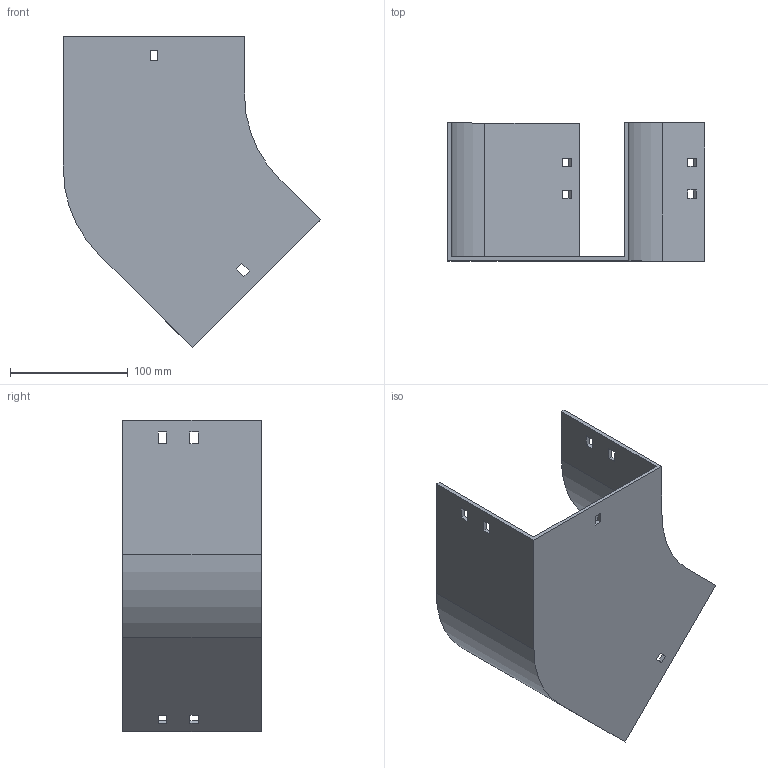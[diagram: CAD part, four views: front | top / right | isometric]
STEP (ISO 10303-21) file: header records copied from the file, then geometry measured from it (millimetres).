
FILE_DESCRIPTION (( 'STEP AP214' ), '1' );
FILE_NAME ('11B1J150.step', '2025-02-21T09:37:01', ( '' ), ( '' ), 'SwSTEP 2.0', 'SolidWorks 2023', '' );
FILE_SCHEMA (( 'AUTOMOTIVE_DESIGN' ));
Length unit declared in the file: millimetre
Products named in the file (1): 11B1J150
Bounding box: 218.64 x 117.5 x 264.96 mm (x, y, z)
Volume: 323943.2 mm3; surface area: 190649.7 mm2
Topology: 1 solids, 1 shells, 58 faces, 168 edges, 112 vertices
Faces by surface type: plane 54, cylinder 4
Entity records: 1943 total; most frequent: CARTESIAN_POINT 339, ORIENTED_EDGE 336, DIRECTION 294, EDGE_CURVE 168, LINE 160, VECTOR 160, VERTEX_POINT 112, EDGE_LOOP 78
